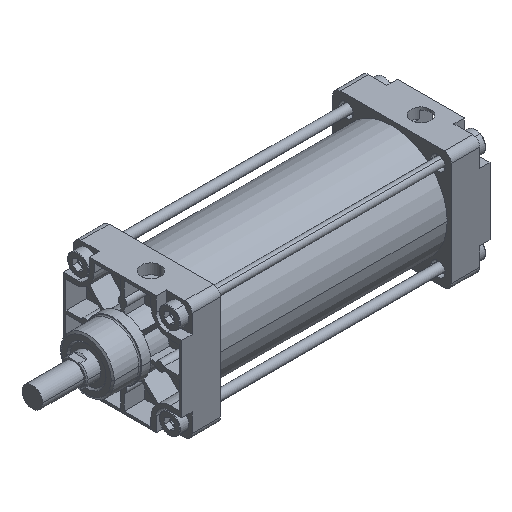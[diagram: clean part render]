
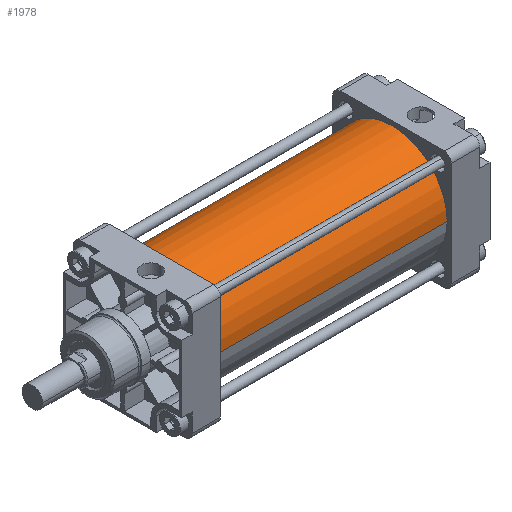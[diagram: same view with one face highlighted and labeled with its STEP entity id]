
A CAD part, isometric view. The second image highlights one B-rep face of the part: STEP entity #1978.
In plain terms, the highlighted cylindrical face has radius 53.5 mm (diameter 107 mm), a partial arc.
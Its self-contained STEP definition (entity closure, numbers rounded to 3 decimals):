
#1682=CARTESIAN_POINT('Axis2P3D Location',(0.,0.,0.)) ;
#1686=CARTESIAN_POINT('Vertex',(0.,53.5,0.)) ;
#1688=CARTESIAN_POINT('Vertex',(0.,-53.5,0.)) ;
#1948=CARTESIAN_POINT('Axis2P3D Location',(112.,0.,0.)) ;
#1953=CARTESIAN_POINT('Line Origine',(112.,53.5,0.)) ;
#1957=CARTESIAN_POINT('Vertex',(224.,53.5,0.)) ;
#1960=CARTESIAN_POINT('Line Origine',(112.,-53.5,0.)) ;
#1964=CARTESIAN_POINT('Vertex',(224.,-53.5,0.)) ;
#1967=CARTESIAN_POINT('Axis2P3D Location',(224.,0.,0.)) ;
#1683=DIRECTION('Axis2P3D Direction',(1.,0.,0.)) ;
#1949=DIRECTION('Axis2P3D Direction',(1.,0.,0.)) ;
#1950=DIRECTION('Axis2P3D XDirection',(0.,1.,0.)) ;
#1954=DIRECTION('Vector Direction',(1.,0.,0.)) ;
#1961=DIRECTION('Vector Direction',(1.,0.,0.)) ;
#1968=DIRECTION('Axis2P3D Direction',(1.,0.,0.)) ;
#1684=AXIS2_PLACEMENT_3D('Circle Axis2P3D',#1682,#1683,$) ;
#1951=AXIS2_PLACEMENT_3D('Cylinder Axis2P3D',#1948,#1949,#1950) ;
#1969=AXIS2_PLACEMENT_3D('Circle Axis2P3D',#1967,#1968,$) ;
#1973=ORIENTED_EDGE('',*,*,#1959,.F.) ;
#1974=ORIENTED_EDGE('',*,*,#1690,.T.) ;
#1975=ORIENTED_EDGE('',*,*,#1966,.T.) ;
#1976=ORIENTED_EDGE('',*,*,#1971,.F.) ;
#1955=VECTOR('Line Direction',#1954,1.) ;
#1962=VECTOR('Line Direction',#1961,1.) ;
#1978=ADVANCED_FACE('PartBody',(#1977),#1952,.T.) ;
#1685=CIRCLE('generated circle',#1684,53.5) ;
#1970=CIRCLE('generated circle',#1969,53.5) ;
#1952=CYLINDRICAL_SURFACE('generated cylinder',#1951,53.5) ;
#1690=EDGE_CURVE('',#1687,#1689,#1685,.T.) ;
#1959=EDGE_CURVE('',#1687,#1958,#1956,.T.) ;
#1966=EDGE_CURVE('',#1689,#1965,#1963,.T.) ;
#1971=EDGE_CURVE('',#1958,#1965,#1970,.T.) ;
#1972=EDGE_LOOP('',(#1973,#1974,#1975,#1976)) ;
#1977=FACE_OUTER_BOUND('',#1972,.T.) ;
#1956=LINE('Line',#1953,#1955) ;
#1963=LINE('Line',#1960,#1962) ;
#1687=VERTEX_POINT('',#1686) ;
#1689=VERTEX_POINT('',#1688) ;
#1958=VERTEX_POINT('',#1957) ;
#1965=VERTEX_POINT('',#1964) ;
